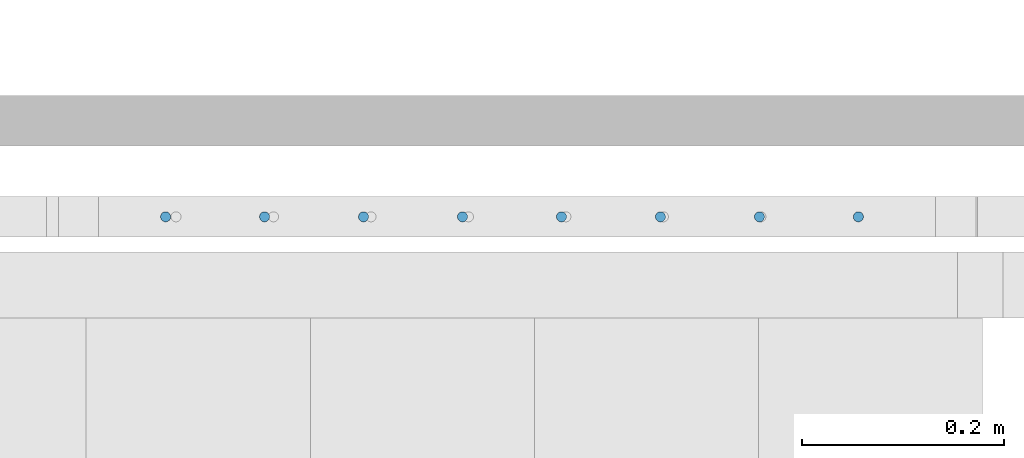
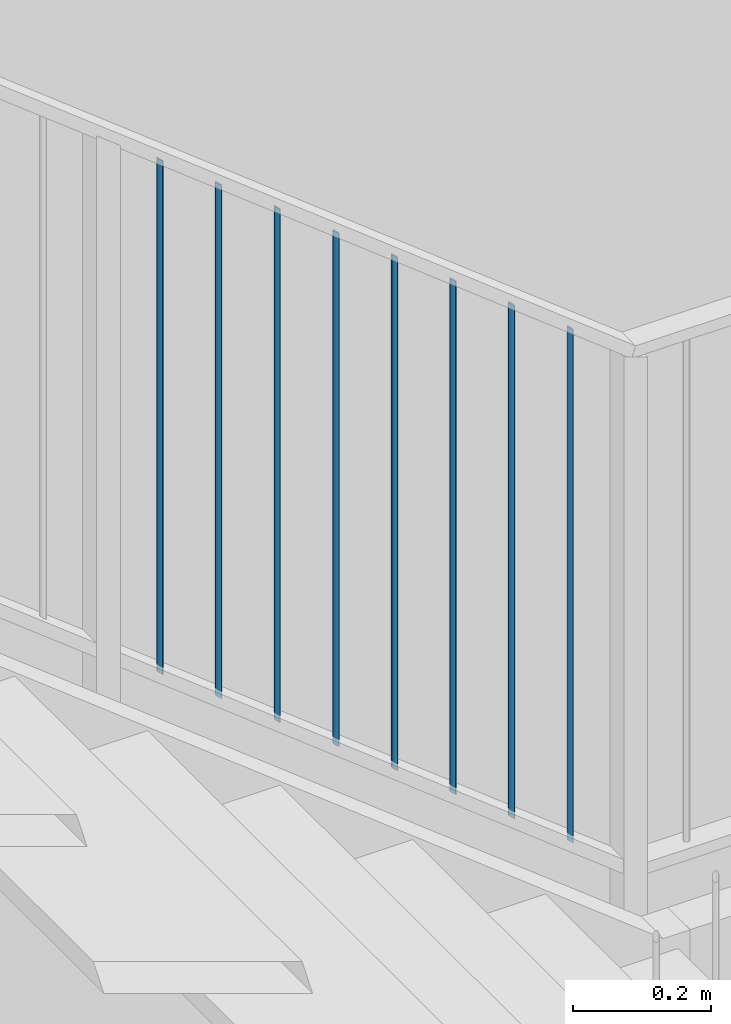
# One storey, part 33 of 135: 8 members, 1 element without a shape of its own.
"""IFC2X3 building model written with IfcOpenShell, lengths in millimetres."""

from ifc_helpers import new_model, entity, si_unit, converted_unit, derived_unit, money_unit, direction, frame, origin_with_axes, place, context, subcontext, project, spatial, faceted_brep, source, transform, mapped, material, type_object, type_shapes, element, aggregate, save


model = new_model("IFC2X3")

# Units and contexts
model_context = context("Model", 3, precision=0.01, world=origin_with_axes(), true_north=direction((0.0, 1.0)))
body_context = subcontext(model_context, "Body", "Model", "MODEL_VIEW")
ifc_project = project(units=[si_unit("LENGTHUNIT", "METRE", prefix="MILLI"), si_unit("AREAUNIT", "SQUARE_METRE"), si_unit("VOLUMEUNIT", "CUBIC_METRE"), converted_unit("PLANEANGLEUNIT", "DEGREE", entity("IfcPlaneAngleMeasure", 0.0174532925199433), si_unit("PLANEANGLEUNIT", "RADIAN"), dimensions=[0, 0, 0, 0, 0, 0, 0]), money_unit("EUR"), converted_unit("TIMEUNIT", "Year", entity("IfcTimeMeasure", 31557600.0), si_unit("TIMEUNIT", "SECOND"), dimensions=[0, 0, 1, 0, 0, 0, 0]), si_unit("MASSUNIT", "GRAM", prefix="KILO"), si_unit("THERMODYNAMICTEMPERATUREUNIT", "DEGREE_CELSIUS"), si_unit("LUMINOUSINTENSITYUNIT", "LUMEN"), si_unit("ENERGYUNIT", "JOULE", prefix="MEGA"), derived_unit("THERMALCONDUCTANCEUNIT", [(si_unit("POWERUNIT", "WATT"), 1), (si_unit("LENGTHUNIT", "METRE"), -1), (si_unit("THERMODYNAMICTEMPERATUREUNIT", "KELVIN"), -1)]), derived_unit("SPECIFICHEATCAPACITYUNIT", [(si_unit("ENERGYUNIT", "JOULE"), 1), (si_unit("MASSUNIT", "GRAM", prefix="KILO"), -1), (si_unit("THERMODYNAMICTEMPERATUREUNIT", "KELVIN"), -1)]), derived_unit("MASSDENSITYUNIT", [(si_unit("MASSUNIT", "GRAM", prefix="KILO"), 1), (si_unit("VOLUMEUNIT", "CUBIC_METRE"), -1)])], contexts=[model_context])

# Site, building, storey
site_placement = place(None, origin_with_axes())
site = spatial("IfcSite", under=ifc_project, at=site_placement, Name="Site", CompositionType="ELEMENT")
building_placement = place(site_placement, origin_with_axes())
building = spatial("IfcBuilding", under=site, at=building_placement, Name="Naam gebouw", CompositionType="ELEMENT")
storey_placement = place(building_placement, origin_with_axes())
storey = spatial("IfcBuildingStorey", under=building, at=storey_placement, Name="Begane grond N", CompositionType="ELEMENT", Elevation=0.0)

# Railing, members
railing_type = type_object("IfcRailingType", Name="Railing Type", PredefinedType="NOTDEFINED")
railing_placement = place(storey_placement, frame((56236.62159597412, 21185.9124251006, 157.4646725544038), z_axis=(0.0, 0.0, 1.0), x_axis=(1.0, 0.0, 0.0)))
railing = element("IfcRailing", 1, at=railing_placement, inside=storey, type_object=railing_type, Name="_Reling-x", PredefinedType="NOTDEFINED")
ifc_material = material(Name="Metaal - Staal C")
member_type = type_object("IfcMemberType", Name="IfcMember", PredefinedType="MEMBER")
shared_shape = source(origin_with_axes(), body_context, "Body", "Brep", [
    faceted_brep([(0.0, -5.000000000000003, -3.920371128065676), (0.8682408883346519, -4.924038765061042, -3.860811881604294), (0.8682408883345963, -4.92403876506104, 903.6391881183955), (0.0, -5.0, 903.5796288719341), (-0.8682408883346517, -4.924038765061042, -3.860811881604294), (-1.710100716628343, -4.698463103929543, -3.683943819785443), (-2.500000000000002, -4.330127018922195, -3.395140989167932), (-3.213938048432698, -3.830222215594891, -3.00317851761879), (-3.830222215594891, -3.213938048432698, -2.519965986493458), (-4.330127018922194, -2.500000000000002, -1.960185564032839), (-4.698463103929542, -1.710100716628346, -1.340845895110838), (-4.924038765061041, -0.8682408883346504, -0.6807653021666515), (-5.0, 0.0, 0.0), (-4.92403876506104, 0.8682408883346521, 0.6807653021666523), (-4.698463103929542, 1.710100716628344, 1.340845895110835), (-4.330127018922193, 2.500000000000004, 1.960185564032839), (-3.83022221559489, 3.213938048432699, 2.519965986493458), (-3.213938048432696, 3.830222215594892, 3.003178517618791), (-2.5, 4.330127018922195, 3.395140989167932), (-1.710100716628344, 4.698463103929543, 3.683943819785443), (-0.8682408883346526, 4.924038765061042, 3.860811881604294), (0.0, 5.000000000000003, 3.920371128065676), (0.8682408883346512, 4.924038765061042, 3.860811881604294), (1.710100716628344, 4.698463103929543, 3.683943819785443), (2.5, 4.330127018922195, 3.395140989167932), (3.213938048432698, 3.830222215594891, 3.00317851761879), (3.83022221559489, 3.213938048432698, 2.519965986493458), (4.330127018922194, 2.5, 1.960185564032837), (4.698463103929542, 1.710100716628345, 1.340845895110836), (4.92403876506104, 0.868240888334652, 0.6807653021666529), (5.0, 0.0, 0.0), (4.92403876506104, -0.8682408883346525, -0.6807653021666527), (4.698463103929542, -1.710100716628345, -1.340845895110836), (4.330127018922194, -2.500000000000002, -1.960185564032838), (3.83022221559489, -3.213938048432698, -2.519965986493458), (3.213938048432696, -3.830222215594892, -3.003178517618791), (2.5, -4.330127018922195, -3.395140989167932), (1.710100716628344, -4.698463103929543, -3.683943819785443), (1.710100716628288, -4.698463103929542, 903.8160561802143), (2.499999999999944, -4.330127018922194, 904.1048590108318), (3.213938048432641, -3.83022221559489, 904.4968214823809), (3.830222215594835, -3.213938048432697, 904.9800340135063), (4.330127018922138, -2.5, 905.5398144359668), (4.698463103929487, -1.710100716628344, 906.1591541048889), (4.924038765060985, -0.8682408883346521, 906.819234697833), (4.999999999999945, 0.0, 907.4999999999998), (4.924038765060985, 0.8682408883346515, 908.1807653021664), (4.698463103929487, 1.710100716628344, 908.8408458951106), (4.330127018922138, 2.499999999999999, 909.4601855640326), (3.830222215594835, 3.213938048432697, 910.0199659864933), (3.213938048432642, 3.83022221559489, 910.5031785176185), (2.499999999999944, 4.330127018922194, 910.8951409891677), (1.710100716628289, 4.698463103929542, 911.1839438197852), (0.8682408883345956, 4.92403876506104, 911.360811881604), (0.0, 5.0, 911.4203711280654), (-0.8682408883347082, 4.92403876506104, 911.360811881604), (-1.710100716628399, 4.698463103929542, 911.1839438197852), (-2.500000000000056, 4.330127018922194, 910.8951409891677), (-3.213938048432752, 3.83022221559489, 910.5031785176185), (-3.830222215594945, 3.213938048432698, 910.0199659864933), (-4.330127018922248, 2.500000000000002, 909.4601855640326), (-4.698463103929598, 1.710100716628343, 908.8408458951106), (-4.924038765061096, 0.8682408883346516, 908.1807653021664), (-5.000000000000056, 0.0, 907.4999999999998), (-4.924038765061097, -0.86824088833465, 906.819234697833), (-4.698463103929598, -1.710100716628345, 906.1591541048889), (-4.330127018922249, -2.5, 905.5398144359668), (-3.830222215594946, -3.213938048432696, 904.9800340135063), (-3.213938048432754, -3.830222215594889, 904.4968214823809), (-2.500000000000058, -4.330127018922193, 904.1048590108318), (-1.710100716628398, -4.698463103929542, 903.8160561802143), (-0.8682408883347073, -4.92403876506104, 903.6391881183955)], [[[0, 1, 2, 3]], [[0, 4, 5, 6, 7, 8, 9, 10, 11, 12, 13, 14, 15, 16, 17, 18, 19, 20, 21, 22, 23, 24, 25, 26, 27, 28, 29, 30, 31, 32, 33, 34, 35, 36, 37, 1]], [[1, 37, 38, 2]], [[3, 2, 38, 39, 40, 41, 42, 43, 44, 45, 46, 47, 48, 49, 50, 51, 52, 53, 54, 55, 56, 57, 58, 59, 60, 61, 62, 63, 64, 65, 66, 67, 68, 69, 70, 71]], [[4, 0, 3, 71]], [[5, 4, 71, 70]], [[6, 5, 70, 69]], [[7, 6, 69, 68]], [[8, 7, 68, 67]], [[9, 8, 67, 66]], [[10, 9, 66, 65]], [[11, 10, 65, 64]], [[12, 11, 64, 63]], [[13, 12, 63, 62]], [[14, 13, 62, 61]], [[15, 14, 61, 60]], [[16, 15, 60, 59]], [[17, 16, 59, 58]], [[18, 17, 58, 57]], [[19, 18, 57, 56]], [[20, 19, 56, 55]], [[21, 20, 55, 54]], [[22, 21, 54, 53]], [[23, 22, 53, 52]], [[24, 23, 52, 51]], [[25, 24, 51, 50]], [[26, 25, 50, 49]], [[27, 26, 49, 48]], [[28, 27, 48, 47]], [[29, 28, 47, 46]], [[30, 29, 46, 45]], [[31, 30, 45, 44]], [[32, 31, 44, 43]], [[33, 32, 43, 42]], [[34, 33, 42, 41]], [[35, 34, 41, 40]], [[36, 35, 40, 39]], [[37, 36, 39, 38]]]),
])
type_shapes(member_type, [shared_shape])
member_1_placement = place(railing_placement, frame((2650.339847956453, 2465.000000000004, 2077.059090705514), z_axis=(0.0, 0.0, 1.0), x_axis=(1.0, 0.0, 0.0)))
member_1 = element("IfcMember", 2, at=member_1_placement, type_object=member_type, material=ifc_material, Name="_Spijlen-x", ObjectType="MEMBER", context=body_context, shape_type="MappedRepresentation", body=[
    mapped(shared_shape, transform((0.0, 0.0, 0.0), x_axis=(0.0, 1.0, 0.0), y_axis=(-1.0, 0.0, 0.0), z_axis=(0.0, 0.0, 1.0))),
])
member_2_placement = place(railing_placement, frame((2552.325974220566, 2465.000000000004, 2153.90924285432), z_axis=(0.0, 0.0, 1.0), x_axis=(1.0, 0.0, 0.0)))
member_2 = element("IfcMember", 3, at=member_2_placement, type_object=member_type, material=ifc_material, Name="_Spijlen-x", ObjectType="MEMBER", context=body_context, shape_type="MappedRepresentation", body=[
    mapped(shared_shape, transform((0.0, 0.0, 0.0), x_axis=(0.0, 1.0, 0.0), y_axis=(-1.0, 0.0, 0.0), z_axis=(0.0, 0.0, 1.0))),
])
member_3_placement = place(railing_placement, frame((2454.312100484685, 2465.000000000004, 2230.759395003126), z_axis=(0.0, 0.0, 1.0), x_axis=(1.0, 0.0, 0.0)))
member_3 = element("IfcMember", 4, at=member_3_placement, type_object=member_type, material=ifc_material, Name="_Spijlen-x", ObjectType="MEMBER", context=body_context, shape_type="MappedRepresentation", body=[
    mapped(shared_shape, transform((0.0, 0.0, 0.0), x_axis=(0.0, 1.0, 0.0), y_axis=(-1.0, 0.0, 0.0), z_axis=(0.0, 0.0, 1.0))),
])
member_4_placement = place(railing_placement, frame((2356.298226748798, 2465.000000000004, 2307.609547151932), z_axis=(0.0, 0.0, 1.0), x_axis=(1.0, 0.0, 0.0)))
member_4 = element("IfcMember", 5, at=member_4_placement, type_object=member_type, material=ifc_material, Name="_Spijlen-x", ObjectType="MEMBER", context=body_context, shape_type="MappedRepresentation", body=[
    mapped(shared_shape, transform((0.0, 0.0, 0.0), x_axis=(0.0, 1.0, 0.0), y_axis=(-1.0, 0.0, 0.0), z_axis=(0.0, 0.0, 1.0))),
])
member_5_placement = place(railing_placement, frame((2258.284353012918, 2465.000000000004, 2384.459699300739), z_axis=(0.0, 0.0, 1.0), x_axis=(1.0, 0.0, 0.0)))
member_5 = element("IfcMember", 6, at=member_5_placement, type_object=member_type, material=ifc_material, Name="_Spijlen-x", ObjectType="MEMBER", context=body_context, shape_type="MappedRepresentation", body=[
    mapped(shared_shape, transform((0.0, 0.0, 0.0), x_axis=(0.0, 1.0, 0.0), y_axis=(-1.0, 0.0, 0.0), z_axis=(0.0, 0.0, 1.0))),
])
member_6_placement = place(railing_placement, frame((2160.270479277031, 2465.000000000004, 2461.309851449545), z_axis=(0.0, 0.0, 1.0), x_axis=(1.0, 0.0, 0.0)))
member_6 = element("IfcMember", 7, at=member_6_placement, type_object=member_type, material=ifc_material, Name="_Spijlen-x", ObjectType="MEMBER", context=body_context, shape_type="MappedRepresentation", body=[
    mapped(shared_shape, transform((0.0, 0.0, 0.0), x_axis=(0.0, 1.0, 0.0), y_axis=(-1.0, 0.0, 0.0), z_axis=(0.0, 0.0, 1.0))),
])
member_7_placement = place(railing_placement, frame((1964.242731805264, 2465.000000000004, 2615.010155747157), z_axis=(0.0, 0.0, 1.0), x_axis=(1.0, 0.0, 0.0)))
member_7 = element("IfcMember", 8, at=member_7_placement, type_object=member_type, material=ifc_material, Name="_Spijlen-x", ObjectType="MEMBER", context=body_context, shape_type="MappedRepresentation", body=[
    mapped(shared_shape, transform((0.0, 0.0, 0.0), x_axis=(0.0, 1.0, 0.0), y_axis=(-1.0, 0.0, 0.0), z_axis=(0.0, 0.0, 1.0))),
])
member_8_placement = place(railing_placement, frame((2062.256605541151, 2465.000000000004, 2538.160003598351), z_axis=(0.0, 0.0, 1.0), x_axis=(1.0, 0.0, 0.0)))
member_8 = element("IfcMember", 9, at=member_8_placement, type_object=member_type, material=ifc_material, Name="_Spijlen-x", ObjectType="MEMBER", context=body_context, shape_type="MappedRepresentation", body=[
    mapped(shared_shape, transform((0.0, 0.0, 0.0), x_axis=(0.0, 1.0, 0.0), y_axis=(-1.0, 0.0, 0.0), z_axis=(0.0, 0.0, 1.0))),
])
aggregate(railing, [member_1, member_2, member_3, member_4, member_5, member_6, member_7, member_8])

save(model, "model.ifc")
